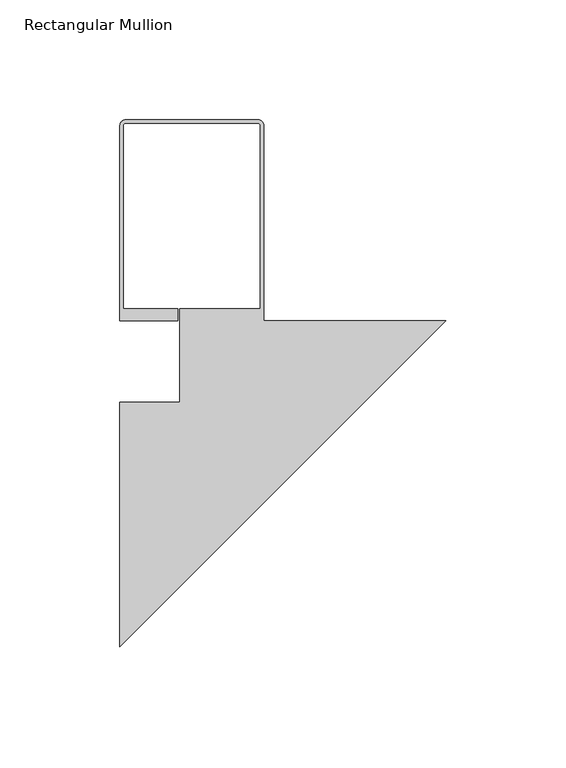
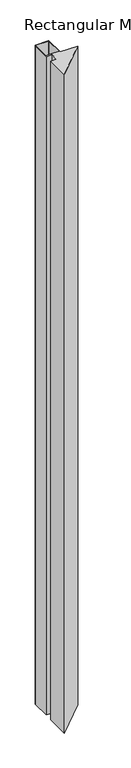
"""IFC4 building model written with IfcOpenShell, lengths in millimetres: member geometry, Rectangular Mullion : FMO053...FM60-81_L."""

import ifcopenshell
import ifcopenshell.guid

model = None  # the IFC model being written
_history = None  # IfcOwnerHistory: only IFC2X3 demands one
_inside = {}  # id of a spatial element -> (the spatial element, [elements in it])
_under = {}  # id of a project, library or spatial element -> (it, [spatial elements below it])
_declared = {}  # id of a project -> (the project, [libraries it declares])
_typed = {}  # id of a type object -> (the type object, [elements of that type])
_made_of = {}  # id of a material, layer set ... -> (it, [elements and type objects made of it])


def new_model(schema):
    """Start an empty IFC model of exactly this schema.

    Asked for "IFC4X3", IfcOpenShell would pick the latest addendum, in which some entities
    have other attributes; the version numbers below select the first issue.
    IFC2X3 requires an IfcOwnerHistory on every rooted entity: one is made here for all.
    """
    global model, _history
    if schema == "IFC4X3":
        model = ifcopenshell.file(schema_version=(4, 3, 0, 0))
    else:
        model = ifcopenshell.file(schema=schema)
    _inside.clear()
    _under.clear()
    _declared.clear()
    _typed.clear()
    _made_of.clear()
    _history = None
    if model.schema == "IFC2X3":
        org = make("IfcOrganization", Name="unknown")
        user = make(
            "IfcPersonAndOrganization",
            ThePerson=make("IfcPerson", FamilyName="unknown"),
            TheOrganization=org,
        )
        app = make(
            "IfcApplication",
            ApplicationDeveloper=org,
            Version="unknown",
            ApplicationFullName="unknown",
            ApplicationIdentifier="unknown",
        )
        _history = make(
            "IfcOwnerHistory",
            OwningUser=user,
            OwningApplication=app,
            ChangeAction="ADDED",
            CreationDate=0,
        )
    return model


def make(cls, **values):
    """One entity of the class cls with the attributes given. An attribute that is None is left unset."""
    return model.create_entity(
        cls, **{name: value for name, value in values.items() if value is not None}
    )


def rooted(cls, **values):
    """An entity with a GlobalId (a new one), such as an element, a storey or a relation."""
    return make(cls, GlobalId=ifcopenshell.guid.new(), OwnerHistory=_history, **values)


def si_unit(unit_type, name, prefix=None):
    """IfcSIUnit, for example si_unit("LENGTHUNIT", "METRE", prefix="MILLI")."""
    return make("IfcSIUnit", UnitType=unit_type, Prefix=prefix, Name=name)


def assignment(units):
    """IfcUnitAssignment: the units of a project."""
    return None if units is None else make("IfcUnitAssignment", Units=units)


def point(xyz):
    """IfcCartesianPoint."""
    return None if xyz is None else make("IfcCartesianPoint", Coordinates=xyz)


def direction(xyz):
    """IfcDirection."""
    return None if xyz is None else make("IfcDirection", DirectionRatios=xyz)


def frame(location, z_axis=None, x_axis=None):
    """IfcAxis2Placement3D, a coordinate frame: its origin and axes. An axis left out is left unset."""
    return make(
        "IfcAxis2Placement3D",
        Location=point(location),
        Axis=direction(z_axis),
        RefDirection=direction(x_axis),
    )


def frame_2d(location, x_axis=None):
    """IfcAxis2Placement2D, a coordinate frame in the plane: its origin and x axis."""
    return make(
        "IfcAxis2Placement2D", Location=point(location), RefDirection=direction(x_axis)
    )


def origin():
    """The frame at (0, 0, 0) with its axes left unset."""
    return frame((0.0, 0.0, 0.0))


def place(relative_to, where):
    """IfcLocalPlacement: puts the frame where relative to a parent placement (None: the world)."""
    return make(
        "IfcLocalPlacement", PlacementRelTo=relative_to, RelativePlacement=where
    )


def context(
    kind, dimensions, precision=None, world=None, true_north=None, identifier=None
):
    """IfcGeometricRepresentationContext, for example the 3D "Model" context."""
    return make(
        "IfcGeometricRepresentationContext",
        ContextIdentifier=identifier,
        ContextType=kind,
        CoordinateSpaceDimension=dimensions,
        Precision=precision,
        WorldCoordinateSystem=world,
        TrueNorth=true_north,
    )


def project(units=None, contexts=None):
    """IfcProject with its units and contexts."""
    return rooted(
        "IfcProject",
        Name="project",
        RepresentationContexts=contexts,
        UnitsInContext=assignment(units),
    )


def spatial(cls, under=None, at=None, **own):
    """A site, building, storey or space (cls), placed at a placement, below another one or the project."""
    s = rooted(cls, ObjectPlacement=at, **own)
    if under is not None:
        _under.setdefault(under.id(), (under, []))[1].append(s)
    return s


def polyline(points):
    """IfcPolyline through the points."""
    return make("IfcPolyline", Points=[point(p) for p in points])


def circle_curve(where, radius):
    """IfcCircle in the frame where."""
    return make("IfcCircle", Position=where, Radius=radius)


def trimmed(basis, trim1, trim2, sense, master):
    """IfcTrimmedCurve: the piece of a basis curve between two trims."""
    return make(
        "IfcTrimmedCurve",
        BasisCurve=basis,
        Trim1=trim1,
        Trim2=trim2,
        SenseAgreement=sense,
        MasterRepresentation=master,
    )


def segment(curve, same_sense, transition):
    """IfcCompositeCurveSegment."""
    return make(
        "IfcCompositeCurveSegment",
        Transition=transition,
        SameSense=same_sense,
        ParentCurve=curve,
    )


def composite_curve(segments, self_intersect=None):
    """IfcCompositeCurve: segments joined end to end."""
    return make("IfcCompositeCurve", Segments=segments, SelfIntersect=self_intersect)


def outline(outer, holes=None, kind="AREA"):
    """IfcArbitraryClosedProfileDef: a profile drawn as a closed curve; with holes, ...WithVoids."""
    if holes is None:
        return make("IfcArbitraryClosedProfileDef", ProfileType=kind, OuterCurve=outer)
    return make(
        "IfcArbitraryProfileDefWithVoids",
        ProfileType=kind,
        OuterCurve=outer,
        InnerCurves=holes,
    )


def extrude(swept, where, along, depth):
    """IfcExtrudedAreaSolid: the profile swept, set in the frame where, extruded along a direction by depth."""
    return make(
        "IfcExtrudedAreaSolid",
        SweptArea=swept,
        Position=where,
        ExtrudedDirection=direction(along),
        Depth=depth,
    )


def shape(context_of_items, identifier, shape_type, items):
    """IfcShapeRepresentation: the items that make up one representation, for example the "Body"."""
    return make(
        "IfcShapeRepresentation",
        ContextOfItems=context_of_items,
        RepresentationIdentifier=identifier,
        RepresentationType=shape_type,
        Items=items,
    )


def source(mapping_origin, context_of_items, identifier, shape_type, items):
    """IfcRepresentationMap: a shape defined once, which mapped items show again and again."""
    return make(
        "IfcRepresentationMap",
        MappingOrigin=mapping_origin,
        MappedRepresentation=shape(context_of_items, identifier, shape_type, items),
    )


def transform(
    local_origin,
    x_axis=None,
    y_axis=None,
    z_axis=None,
    scale=None,
    scale2=None,
    scale3=None,
    uniform=True,
):
    """IfcCartesianTransformationOperator3D, or its non-uniform kind. x_axis, y_axis, z_axis: its Axis1, 2, 3."""
    if uniform:
        return make(
            "IfcCartesianTransformationOperator3D",
            Axis1=direction(x_axis),
            Axis2=direction(y_axis),
            LocalOrigin=point(local_origin),
            Scale=scale,
            Axis3=direction(z_axis),
        )
    return make(
        "IfcCartesianTransformationOperator3DnonUniform",
        Axis1=direction(x_axis),
        Axis2=direction(y_axis),
        LocalOrigin=point(local_origin),
        Scale=scale,
        Axis3=direction(z_axis),
        Scale2=scale2,
        Scale3=scale3,
    )


def mapped(mapping_source, mapping_target):
    """IfcMappedItem: shows the shape of a source again, moved by a transform."""
    return make(
        "IfcMappedItem", MappingSource=mapping_source, MappingTarget=mapping_target
    )


def made_of(thing, what):
    """Note that an element or type object is made of a material, layer set ...; save() writes the relation."""
    if what is not None:
        _made_of.setdefault(what.id(), (what, []))[1].append(thing)
    return thing


def element(
    cls,
    number,
    at=None,
    inside=None,
    cuts=None,
    type_object=None,
    material=None,
    context=None,
    identifier="Body",
    shape_type=None,
    held_by="IfcProductDefinitionShape",
    body=None,
    shapes=None,
    **own,
):
    """One element of the class cls, such as IfcWall. Its Tag is "e" and its number.

    at: its placement. inside: the storey or other place that contains it. cuts: it is an
    opening in that element (IfcRelVoidsElement). A single representation is given by context,
    identifier, shape_type and body (its items); several are given by shapes. held_by: the class
    of the entity that holds the representations. save() writes the other relations.
    """
    e = rooted(cls, Tag="e%d" % number, ObjectPlacement=at, **own)
    if body is not None:
        shapes = [shape(context, identifier, shape_type, body)]
    if shapes is not None:
        e.Representation = make(held_by, Representations=shapes)
    if inside is not None:
        _inside.setdefault(inside.id(), (inside, []))[1].append(e)
    if cuts is not None:
        rooted(
            "IfcRelVoidsElement", RelatingBuildingElement=cuts, RelatedOpeningElement=e
        )
    if type_object is not None:
        _typed.setdefault(type_object.id(), (type_object, []))[1].append(e)
    return made_of(e, material)


def aggregate(whole, parts):
    """IfcRelAggregates: a whole, such as a stair, and the parts it consists of."""
    return rooted("IfcRelAggregates", RelatingObject=whole, RelatedObjects=parts)


def save(model, path):
    """Write the relations noted so far, then the file.

    IfcRelAggregates (storeys below a building ...), IfcRelContainedInSpatialStructure (elements
    in a storey), IfcRelDefinesByType, IfcRelAssociatesMaterial and IfcRelDeclares: one each for
    every whole, place, type object, material and project.
    """
    for whole, parts in _under.values():
        aggregate(whole, parts)
    for where, things in _inside.values():
        rooted(
            "IfcRelContainedInSpatialStructure",
            RelatedElements=things,
            RelatingStructure=where,
        )
    for kind, things in _typed.values():
        rooted("IfcRelDefinesByType", RelatedObjects=things, RelatingType=kind)
    for what, things in _made_of.values():
        rooted("IfcRelAssociatesMaterial", RelatedObjects=things, RelatingMaterial=what)
    for by, libraries in _declared.values():
        rooted("IfcRelDeclares", RelatingContext=by, RelatedDefinitions=libraries)
    model.write(path)


def rectangular_mullion_7999ed0b(model_context):
    return source(origin(), model_context, "Body", "SweptSolid", [
        extrude(outline(composite_curve([segment(polyline([(-134.5454068, 98.2477977), (-134.5454068, 21.8), (-111.7712064, 21.8), (-111.7712064, 16.8), (-135.9454068, 16.8), (-135.9454068, 98.2477977)]), True, "CONTINUOUS"), segment(trimmed(circle_curve(frame_2d((-133.5454068, 98.2477977)), 2.4), [point((-135.9454068, 98.2477977))], [point((-133.5454068, 100.6477977))], False, "CARTESIAN"), True, "CONTINUOUS"), segment(polyline([(-133.5454068, 100.6477977), (-78.3454068, 100.6477977)]), True, "CONTINUOUS"), segment(trimmed(circle_curve(frame_2d((-78.3454068, 98.2477977)), 2.4), [point((-78.3454068, 100.6477977))], [point((-75.9454068, 98.2477977))], False, "CARTESIAN"), True, "CONTINUOUS"), segment(polyline([(-75.9454068, 98.2477977), (-75.9454068, 16.7743874), (0.0, 16.7743874), (-135.9712064, -119.196819), (-135.9712064, -17.2), (-110.9712064, -17.2), (-110.9712064, 21.8), (-77.3454068, 21.8), (-77.3454068, 98.2477976)]), True, "CONTINUOUS"), segment(trimmed(circle_curve(frame_2d((-78.3454069, 98.2477976)), 1.0000001), [point((-77.3454068, 98.2477976))], [point((-78.3454069, 99.2477977))], True, "CARTESIAN"), True, "CONTINUOUS"), segment(polyline([(-78.3454069, 99.2477977), (-133.5454068, 99.2477977)]), True, "CONTINUOUS"), segment(trimmed(circle_curve(frame_2d((-133.5454068, 98.2477977)), 1.0), [point((-133.5454068, 99.2477977))], [point((-134.5454068, 98.2477977))], True, "CARTESIAN"), True, "CONTINUOUS")], self_intersect=False)), frame((0.0, 0.0, -3000.0), z_axis=(0.0, 0.0, 1.0), x_axis=(1.0, 0.0, 0.0)), (0.0, 0.0, 1.0), 3000.0),
    ])


if __name__ == "__main__":
    model = new_model("IFC4")
    model_context = context("Model", 3, world=origin())
    ifc_project = project(units=[si_unit("LENGTHUNIT", "METRE", prefix="MILLI")], contexts=[model_context])
    site = spatial("IfcSite", under=ifc_project)
    building = spatial("IfcBuilding", under=site)
    placement = place(None, origin())
    rectangular_mullion_shape = rectangular_mullion_7999ed0b(model_context)
    element("IfcMember", 1, ObjectType="Rectangular Mullion : FMO053...FM60-81_L", at=placement, inside=building, context=model_context, shape_type="MappedRepresentation", body=[
        mapped(rectangular_mullion_shape, transform((0.0, 0.0, 0.0), x_axis=(1.0, 0.0, 0.0), y_axis=(0.0, 1.0, 0.0), z_axis=(0.0, 0.0, 1.0))),
    ])
    save(model, "model.ifc")
